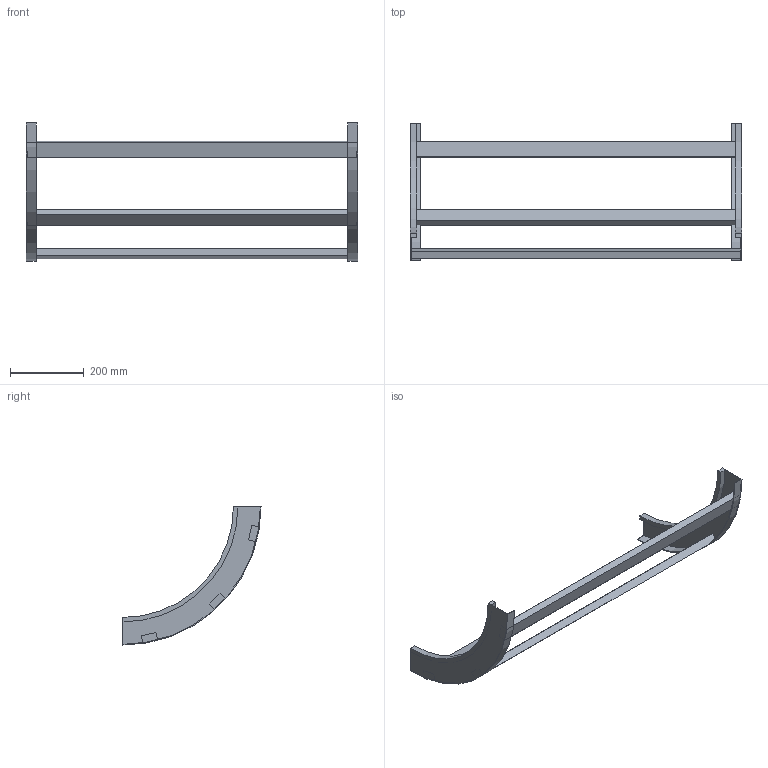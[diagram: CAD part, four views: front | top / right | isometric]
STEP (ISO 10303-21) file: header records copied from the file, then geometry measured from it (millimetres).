
FILE_DESCRIPTION (( 'STEP AP214' ), '1' );
FILE_NAME ('B2X30B3C900XX.step', '2025-03-20T10:25:39', ( '' ), ( '' ), 'SwSTEP 2.0', 'SolidWorks 2023', '' );
FILE_SCHEMA (( 'AUTOMOTIVE_DESIGN' ));
Length unit declared in the file: millimetre
Products named in the file (3): B2X30B3C900XX; B2_LONGH.SALITA_90°_H75_R300; TRAVERSINO_900
Assembly tree (5 placements, depth 2):
  B2X30B3C900XX
    B2_LONGH.SALITA_90°_H75_R300  x2
    TRAVERSINO_900  x3
Bounding box: 900 x 375 x 375 mm (x, y, z)
Volume: 2579645.8 mm3; surface area: 584470.5 mm2
Topology: 5 solids, 5 shells, 38 faces, 84 edges, 56 vertices
Faces by surface type: plane 30, cylinder 8
Entity records: 560 total; most frequent: DIRECTION 92, CARTESIAN_POINT 84, ORIENTED_EDGE 72, EDGE_CURVE 36, AXIS2_PLACEMENT_3D 32, LINE 28, VECTOR 28, VERTEX_POINT 24
